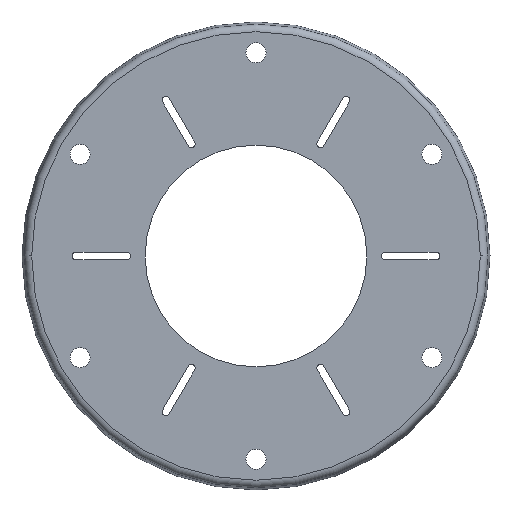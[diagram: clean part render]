
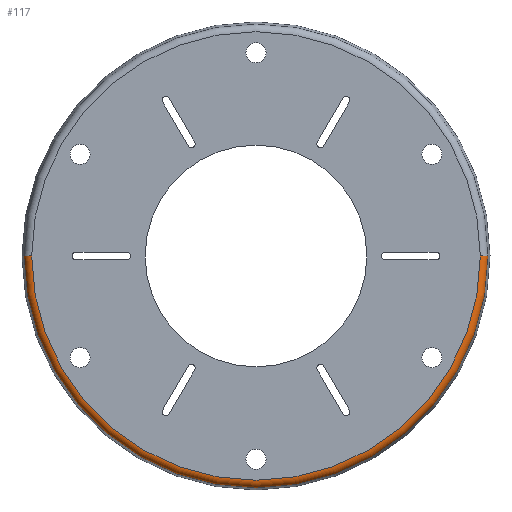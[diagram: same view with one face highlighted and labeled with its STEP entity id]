
A CAD part, top view. The second image highlights one B-rep face of the part: STEP entity #117.
In plain terms, the highlighted toroidal (fillet/blend) face has major radius 72.846 mm and minor radius 2.5 mm.
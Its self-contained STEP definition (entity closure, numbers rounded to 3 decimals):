
#92 = CIRCLE ( 'NONE', #603, 72.846 ) ;
#117 = ADVANCED_FACE ( 'NONE', ( #1547 ), #1318, .T. ) ;
#129 = DIRECTION ( 'NONE',  ( -1., 0., 0. ) ) ;
#162 = DIRECTION ( 'NONE',  ( 1., 0., 0. ) ) ;
#196 = VERTEX_POINT ( 'NONE', #539 ) ;
#225 = ORIENTED_EDGE ( 'NONE', *, *, #1193, .F. ) ;
#270 = DIRECTION ( 'NONE',  ( 0., 1., 0. ) ) ;
#378 = DIRECTION ( 'NONE',  ( 1., 0., 0. ) ) ;
#403 = VERTEX_POINT ( 'NONE', #1108 ) ;
#470 = CARTESIAN_POINT ( 'NONE',  ( 72.846, 0., -2.5 ) ) ;
#489 = DIRECTION ( 'NONE',  ( 0., -1., 0. ) ) ;
#539 = CARTESIAN_POINT ( 'NONE',  ( 72.846, 0., 0. ) ) ;
#588 = EDGE_CURVE ( 'NONE', #403, #196, #1096, .T. ) ;
#603 = AXIS2_PLACEMENT_3D ( 'NONE', #910, #1810, #609 ) ;
#609 = DIRECTION ( 'NONE',  ( 1., 0., 0. ) ) ;
#619 = VERTEX_POINT ( 'NONE', #1843 ) ;
#745 = EDGE_CURVE ( 'NONE', #1703, #196, #92, .T. ) ;
#772 = DIRECTION ( 'NONE',  ( 0., 0., 1. ) ) ;
#859 = CIRCLE ( 'NONE', #1042, 2.5 ) ;
#876 = CARTESIAN_POINT ( 'NONE',  ( 0., 0., -1.853 ) ) ;
#910 = CARTESIAN_POINT ( 'NONE',  ( 0., 0., 0. ) ) ;
#919 = CARTESIAN_POINT ( 'NONE',  ( 0., 0., -2.5 ) ) ;
#930 = ORIENTED_EDGE ( 'NONE', *, *, #745, .F. ) ;
#1042 = AXIS2_PLACEMENT_3D ( 'NONE', #1339, #270, #129 ) ;
#1079 = DIRECTION ( 'NONE',  ( 0., 0., -1. ) ) ;
#1086 = CARTESIAN_POINT ( 'NONE',  ( -72.846, 0., 0. ) ) ;
#1096 = CIRCLE ( 'NONE', #1807, 2.5 ) ;
#1108 = CARTESIAN_POINT ( 'NONE',  ( 75.261, 0., -1.853 ) ) ;
#1193 = EDGE_CURVE ( 'NONE', #619, #1703, #859, .T. ) ;
#1291 = EDGE_LOOP ( 'NONE', ( #225, #1513, #1766, #930 ) ) ;
#1318 = TOROIDAL_SURFACE ( 'NONE', #1901, 72.846, 2.5 ) ;
#1339 = CARTESIAN_POINT ( 'NONE',  ( -72.846, 0., -2.5 ) ) ;
#1481 = DIRECTION ( 'NONE',  ( 0., 0., 1. ) ) ;
#1513 = ORIENTED_EDGE ( 'NONE', *, *, #1544, .T. ) ;
#1544 = EDGE_CURVE ( 'NONE', #619, #403, #1718, .T. ) ;
#1547 = FACE_OUTER_BOUND ( 'NONE', #1291, .T. ) ;
#1631 = AXIS2_PLACEMENT_3D ( 'NONE', #876, #1481, #162 ) ;
#1703 = VERTEX_POINT ( 'NONE', #1086 ) ;
#1718 = CIRCLE ( 'NONE', #1631, 75.261 ) ;
#1766 = ORIENTED_EDGE ( 'NONE', *, *, #588, .T. ) ;
#1807 = AXIS2_PLACEMENT_3D ( 'NONE', #470, #489, #1079 ) ;
#1810 = DIRECTION ( 'NONE',  ( 0., 0., 1. ) ) ;
#1843 = CARTESIAN_POINT ( 'NONE',  ( -75.261, 0., -1.853 ) ) ;
#1901 = AXIS2_PLACEMENT_3D ( 'NONE', #919, #772, #378 ) ;
